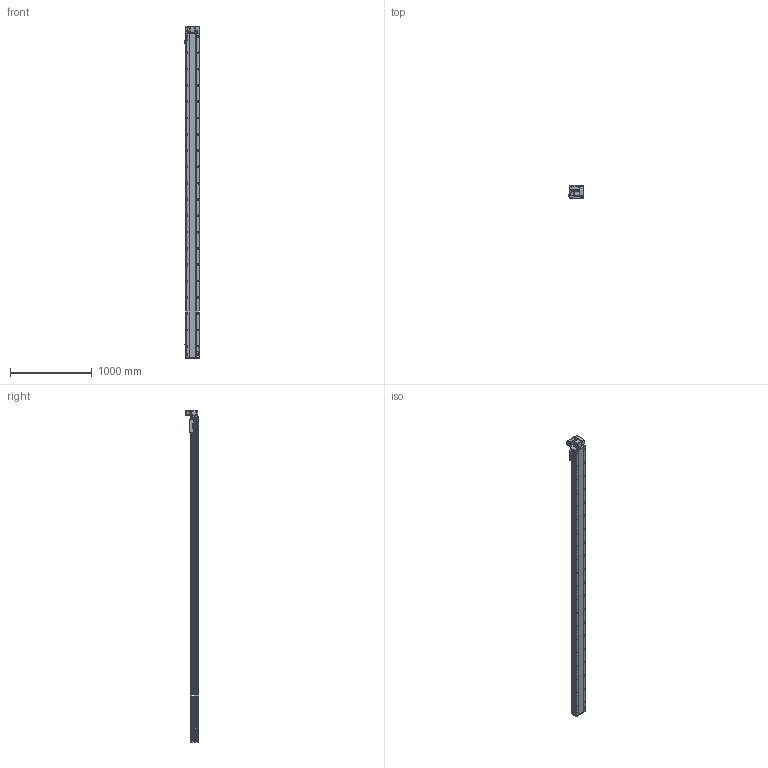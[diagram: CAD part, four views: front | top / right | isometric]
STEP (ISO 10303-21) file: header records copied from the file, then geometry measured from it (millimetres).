
FILE_DESCRIPTION (( 'STEP AP214' ), '1' );
FILE_NAME ('RTB17S-XX-3700-RW-M40-C4.STEP', '2025-12-11T09:23:01', ( '' ), ( '' ), 'SwSTEP 2.0', 'SolidWorks 2018', '' );
FILE_SCHEMA (( 'AUTOMOTIVE_DESIGN' ));
Length unit declared in the file: millimetre
Products named in the file (14): RTB17S-RW-々湍釱蚾饜-400W^RTB17S-XX-XX-RW-M40-C4; RTH13-BL-012覜茼え俋离^RTB17S-XX-XX-RW-M40-C4; RTB17S-L-004佪裝蹟譫蟀諉釱^RTB17S-XX-XX-RW-M40-C4; RMP17S-L-014-T20--々湍釱^RTB17S-RW-々湍釱蚾饜-400W_RTB17S-XX-XX-RW-M40-C4; 400W侜督萇儂^RTB17S-XX-XX-RW-M40-C4; RTB14-L-008-M20--萇儂啣^RTB17S-RW-々湍釱蚾饜-400W_RTB17S-XX-XX-RW-M40-C4; RTB17S-XX-3700-RW-M40-C4; RTB17-R-011菁釱^RTB17S-XX-XX-RW-M40-C4; RTB14-L-017P^RTB17S-RW-々湍釱蚾饜-400W_RTB17S-XX-XX-RW-M40-C4; OMRON EE-SX672 传感器^RTB17S-XX-XX-RW-M40-C4; RTB17S-L-001耜醱啣^RTB17S-XX-XX-RW-M40-C4; RTB17S-L-007奻裔^RTB17S-XX-XX-RW-M40-C4; RTB14-L-018P^RTB17S-RW-々湍釱蚾饜-400W_RTB17S-XX-XX-RW-M40-C4; RTB14-L-005P--轴承塑胶压盖^RTB17S-RW-皮带座装配-400W_RTB17S-XX-XX-RW-M40-C4
Assembly tree (16 placements, depth 3):
  RTB17S-XX-3700-RW-M40-C4
    RTB17-R-011菁釱^RTB17S-XX-XX-RW-M40-C4
    RTB17S-L-007奻裔^RTB17S-XX-XX-RW-M40-C4
    OMRON EE-SX672 传感器^RTB17S-XX-XX-RW-M40-C4  x3
    RTB17S-L-001耜醱啣^RTB17S-XX-XX-RW-M40-C4
    400W侜督萇儂^RTB17S-XX-XX-RW-M40-C4
    RTB17S-L-004佪裝蹟譫蟀諉釱^RTB17S-XX-XX-RW-M40-C4
    RTH13-BL-012覜茼え俋离^RTB17S-XX-XX-RW-M40-C4
    RTB17S-RW-々湍釱蚾饜-400W^RTB17S-XX-XX-RW-M40-C4
      RMP17S-L-014-T20--々湍釱^RTB17S-RW-々湍釱蚾饜-400W_RTB17S-XX-XX-RW-M40-C4
      RTB14-L-005P--轴承塑胶压盖^RTB17S-RW-皮带座装配-400W_RTB17S-XX-XX-RW-M40-C4
      RTB14-L-008-M20--萇儂啣^RTB17S-RW-々湍釱蚾饜-400W_RTB17S-XX-XX-RW-M40-C4
      RTB14-L-017P^RTB17S-RW-々湍釱蚾饜-400W_RTB17S-XX-XX-RW-M40-C4  x2
      RTB14-L-018P^RTB17S-RW-々湍釱蚾饜-400W_RTB17S-XX-XX-RW-M40-C4
Bounding box: 183.5 x 160.5 x 4072.5 mm (x, y, z)
Volume: 34389986.7 mm3; surface area: 3900050.9 mm2
Topology: 15 solids, 15 shells, 2429 faces, 6843 edges, 4473 vertices
Faces by surface type: plane 1096, cylinder 885, bspline 301, cone 139, torus 8
Entity records: 73385 total; most frequent: CARTESIAN_POINT 21048, ORIENTED_EDGE 10530, DIRECTION 9656, EDGE_CURVE 5265, VERTEX_POINT 3461, AXIS2_PLACEMENT_3D 3391, VECTOR 2874, LINE 2874
